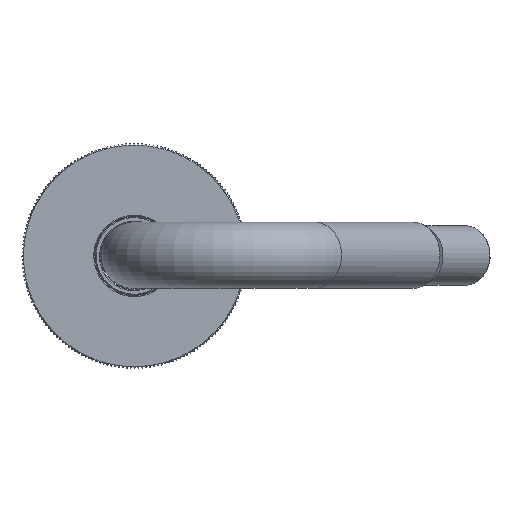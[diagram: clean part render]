
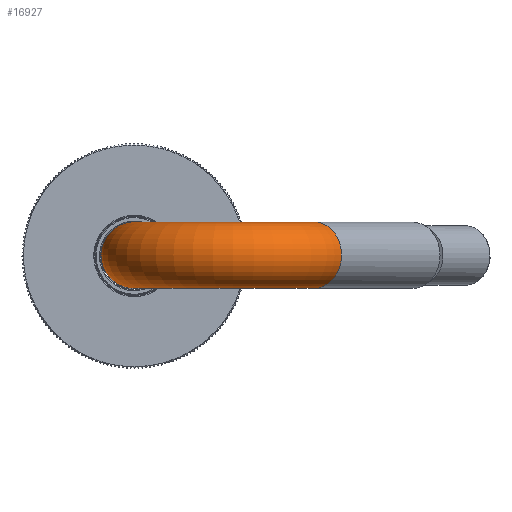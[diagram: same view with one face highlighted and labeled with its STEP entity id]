
A CAD part, top view. The second image highlights one B-rep face of the part: STEP entity #16927.
In plain terms, the highlighted toroidal (fillet/blend) face has major radius 30 mm and minor radius 10 mm.
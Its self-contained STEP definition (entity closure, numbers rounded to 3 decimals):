
#2594=TOROIDAL_SURFACE('',#26099,30.,10.);
#3398=ORIENTED_EDGE('',*,*,#8568,.T.);
#3399=ORIENTED_EDGE('',*,*,#8522,.F.);
#8522=EDGE_CURVE('',#11120,#11120,#12639,.F.);
#8568=EDGE_CURVE('',#11166,#11166,#12654,.F.);
#11120=VERTEX_POINT('',#33614);
#11166=VERTEX_POINT('',#33741);
#12639=CIRCLE('',#26070,10.);
#12654=CIRCLE('',#26098,10.);
#13634=EDGE_LOOP('',(#3398));
#13635=EDGE_LOOP('',(#3399));
#15032=FACE_BOUND('',#13634,.T.);
#15033=FACE_BOUND('',#13635,.T.);
#16927=ADVANCED_FACE('',(#15032,#15033),#2594,.T.);
#26070=AXIS2_PLACEMENT_3D('',#33613,#28341,#28342);
#26098=AXIS2_PLACEMENT_3D('',#33740,#28414,#28415);
#26099=AXIS2_PLACEMENT_3D('',#33742,#28416,#28417);
#28341=DIRECTION('',(0.,0.,1.));
#28342=DIRECTION('',(-1.,0.,0.));
#28414=DIRECTION('',(0.574,0.,-0.819));
#28415=DIRECTION('',(0.819,0.,0.574));
#28416=DIRECTION('',(0.,1.,0.));
#28417=DIRECTION('',(0.,0.,1.));
#33613=CARTESIAN_POINT('',(0.,0.,121.));
#33614=CARTESIAN_POINT('',(-10.,0.,121.));
#33740=CARTESIAN_POINT('',(54.575,0.,138.207));
#33741=CARTESIAN_POINT('',(62.766,0.,143.943));
#33742=CARTESIAN_POINT('',(30.,0.,121.));
